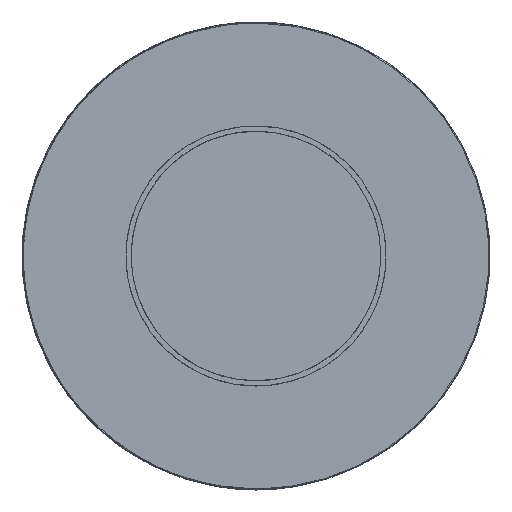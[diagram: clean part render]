
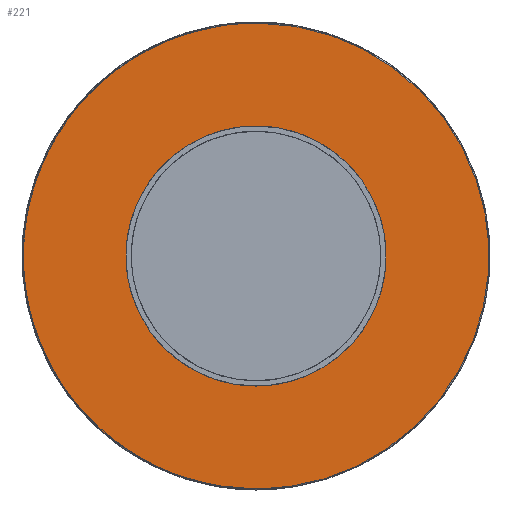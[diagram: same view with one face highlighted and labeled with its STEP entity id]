
A CAD part, front view. The second image highlights one B-rep face of the part: STEP entity #221.
In plain terms, the highlighted planar face has unit normal (0, 1, 0).
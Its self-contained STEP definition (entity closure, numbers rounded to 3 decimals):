
#13=FACE_BOUND('',#258,.T.);
#18=PLANE('',#522);
#221=ADVANCED_FACE('',(#238,#13),#18,.T.);
#238=FACE_OUTER_BOUND('',#257,.T.);
#257=EDGE_LOOP('',(#304));
#258=EDGE_LOOP('',(#305));
#304=ORIENTED_EDGE('',*,*,#360,.T.);
#305=ORIENTED_EDGE('',*,*,#361,.T.);
#360=EDGE_CURVE('',#472,#472,#422,.T.);
#361=EDGE_CURVE('',#473,#473,#423,.T.);
#422=(
BOUNDED_CURVE()
B_SPLINE_CURVE(2,(#925,#926,#927,#928,#929,#930,#931,#932,#933),
 .UNSPECIFIED.,.T.,.F.)
B_SPLINE_CURVE_WITH_KNOTS((3,2,2,2,3),(0.,1.571,3.142,
4.712,6.283),.UNSPECIFIED.)
CURVE()
GEOMETRIC_REPRESENTATION_ITEM()
RATIONAL_B_SPLINE_CURVE((1.,0.707,1.,0.707,1.,0.707,
1.,0.707,1.))
REPRESENTATION_ITEM('')
);
#423=(
BOUNDED_CURVE()
B_SPLINE_CURVE(2,(#934,#935,#936,#937,#938,#939,#940,#941,#942),
 .UNSPECIFIED.,.T.,.F.)
B_SPLINE_CURVE_WITH_KNOTS((3,2,2,2,3),(0.,1.571,3.142,
4.712,6.283),.UNSPECIFIED.)
CURVE()
GEOMETRIC_REPRESENTATION_ITEM()
RATIONAL_B_SPLINE_CURVE((1.,0.707,1.,0.707,1.,0.707,
1.,0.707,1.))
REPRESENTATION_ITEM('')
);
#472=VERTEX_POINT('',#923);
#473=VERTEX_POINT('',#924);
#522=AXIS2_PLACEMENT_3D('',#922,#530,$);
#530=DIRECTION('',(0.,1.,0.));
#922=CARTESIAN_POINT('',(-226.688,500.,-226.688));
#923=CARTESIAN_POINT('',(0.,500.,224.));
#924=CARTESIAN_POINT('',(0.,500.,-125.));
#925=CARTESIAN_POINT('',(0.,500.,224.));
#926=CARTESIAN_POINT('',(224.,500.,224.));
#927=CARTESIAN_POINT('',(224.,500.,0.));
#928=CARTESIAN_POINT('',(224.,500.,-224.));
#929=CARTESIAN_POINT('',(0.,500.,-224.));
#930=CARTESIAN_POINT('',(-224.,500.,-224.));
#931=CARTESIAN_POINT('',(-224.,500.,0.));
#932=CARTESIAN_POINT('',(-224.,500.,224.));
#933=CARTESIAN_POINT('',(0.,500.,224.));
#934=CARTESIAN_POINT('',(0.,500.,-125.));
#935=CARTESIAN_POINT('',(125.,500.,-125.));
#936=CARTESIAN_POINT('',(125.,500.,0.));
#937=CARTESIAN_POINT('',(125.,500.,125.));
#938=CARTESIAN_POINT('',(0.,500.,125.));
#939=CARTESIAN_POINT('',(-125.,500.,125.));
#940=CARTESIAN_POINT('',(-125.,500.,0.));
#941=CARTESIAN_POINT('',(-125.,500.,-125.));
#942=CARTESIAN_POINT('',(0.,500.,-125.));
